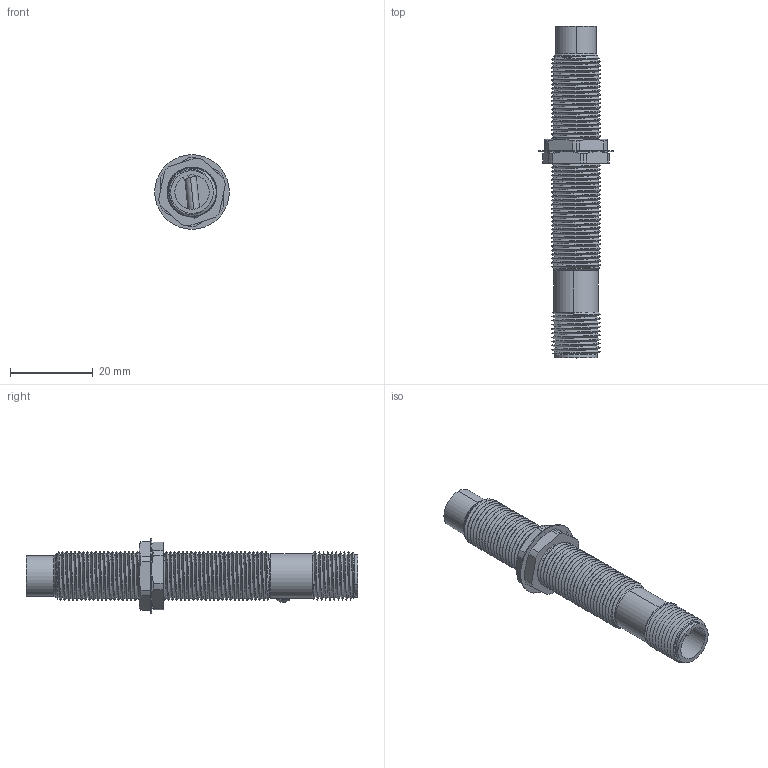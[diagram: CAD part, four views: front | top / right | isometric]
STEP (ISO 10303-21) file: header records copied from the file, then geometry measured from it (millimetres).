
FILE_DESCRIPTION (( 'STEP AP214' ), '1' );
FILE_NAME ('IPS12 SOKETLÝ MODEL.STEP', '2022-06-24T07:15:09', ( '' ), ( '' ), 'SwSTEP 2.0', 'SolidWorks 2014', '' );
FILE_SCHEMA (( 'AUTOMOTIVE_DESIGN' ));
Length unit declared in the file: millimetre
Products named in the file (1): IPS12 SOKETLÝ MODEL
Bounding box: 18 x 80 x 18 mm (x, y, z)
Surface area: 6002 mm2 (no closed solid volume)
Topology: 0 solids, 9 shells, 186 faces, 531 edges, 354 vertices
Faces by surface type: cylinder 133, plane 26, cone 20, bspline 5, sphere 2
Entity records: 13861 total; most frequent: CARTESIAN_POINT 7602, ORIENTED_EDGE 997, DIRECTION 748, EDGE_CURVE 531, VERTEX_POINT 354, AXIS2_PLACEMENT_3D 281, EDGE_LOOP 195, UNCERTAINTY_MEASURE_WITH_UNIT 188
